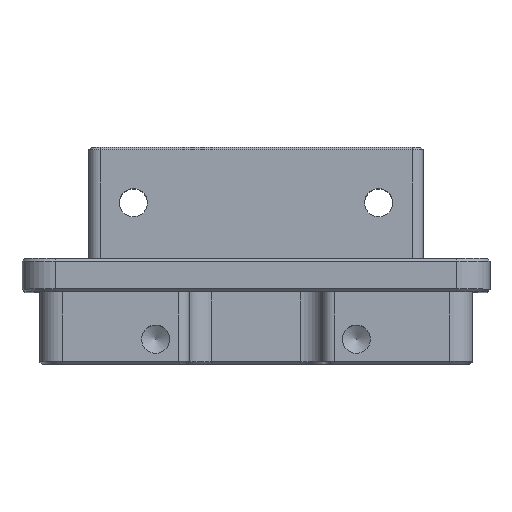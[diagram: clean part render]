
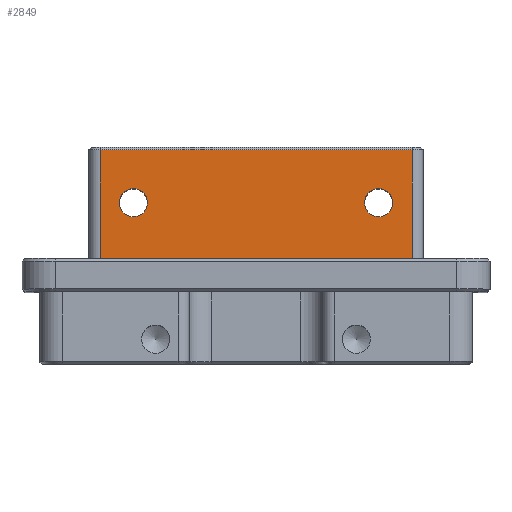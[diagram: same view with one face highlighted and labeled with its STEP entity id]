
A CAD part, top view. The second image highlights one B-rep face of the part: STEP entity #2849.
In plain terms, the highlighted planar face has unit normal (0, 0, 1).
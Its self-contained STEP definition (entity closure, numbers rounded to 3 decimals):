
#78=FACE_BOUND('',#455,.T.);
#79=FACE_BOUND('',#456,.T.);
#134=PLANE('',#3145);
#268=FACE_OUTER_BOUND('',#454,.T.);
#454=EDGE_LOOP('',(#2416,#2417,#2418,#2419));
#455=EDGE_LOOP('',(#2420));
#456=EDGE_LOOP('',(#2421));
#630=CIRCLE('',#3146,1.265);
#631=CIRCLE('',#3147,1.265);
#833=LINE('',#4683,#1103);
#856=LINE('',#4749,#1126);
#857=LINE('',#4753,#1127);
#858=LINE('',#4754,#1128);
#1103=VECTOR('',#3793,10.);
#1126=VECTOR('',#3872,10.);
#1127=VECTOR('',#3877,10.);
#1128=VECTOR('',#3878,10.);
#1378=VERTEX_POINT('',#4679);
#1379=VERTEX_POINT('',#4681);
#1394=VERTEX_POINT('',#4748);
#1395=VERTEX_POINT('',#4752);
#1396=VERTEX_POINT('',#4755);
#1397=VERTEX_POINT('',#4757);
#1721=EDGE_CURVE('',#1379,#1378,#833,.T.);
#1754=EDGE_CURVE('',#1378,#1394,#856,.T.);
#1756=EDGE_CURVE('',#1395,#1379,#857,.T.);
#1757=EDGE_CURVE('',#1394,#1395,#858,.T.);
#1758=EDGE_CURVE('',#1396,#1396,#630,.T.);
#1759=EDGE_CURVE('',#1397,#1397,#631,.T.);
#2416=ORIENTED_EDGE('',*,*,#1721,.F.);
#2417=ORIENTED_EDGE('',*,*,#1756,.F.);
#2418=ORIENTED_EDGE('',*,*,#1757,.F.);
#2419=ORIENTED_EDGE('',*,*,#1754,.F.);
#2420=ORIENTED_EDGE('',*,*,#1758,.T.);
#2421=ORIENTED_EDGE('',*,*,#1759,.T.);
#2849=ADVANCED_FACE('',(#268,#78,#79),#134,.T.);
#3145=AXIS2_PLACEMENT_3D('',#4751,#3875,#3876);
#3146=AXIS2_PLACEMENT_3D('',#4756,#3879,#3880);
#3147=AXIS2_PLACEMENT_3D('',#4758,#3881,#3882);
#3793=DIRECTION('',(1.,0.,0.));
#3872=DIRECTION('',(0.,-1.,0.));
#3875=DIRECTION('center_axis',(0.,0.,1.));
#3876=DIRECTION('ref_axis',(1.,0.,0.));
#3877=DIRECTION('',(0.,1.,0.));
#3878=DIRECTION('',(-1.,0.,0.));
#3879=DIRECTION('center_axis',(0.,0.,-1.));
#3880=DIRECTION('ref_axis',(1.,0.,0.));
#3881=DIRECTION('center_axis',(0.,0.,-1.));
#3882=DIRECTION('ref_axis',(1.,0.,0.));
#4679=CARTESIAN_POINT('',(14.,11.25,15.5));
#4681=CARTESIAN_POINT('',(-14.,11.25,15.5));
#4683=CARTESIAN_POINT('',(-7.5,11.25,15.5));
#4748=CARTESIAN_POINT('',(14.,1.5,15.5));
#4749=CARTESIAN_POINT('',(14.,0.,15.5));
#4751=CARTESIAN_POINT('Origin',(-15.,0.,15.5));
#4752=CARTESIAN_POINT('',(-14.,1.5,15.5));
#4753=CARTESIAN_POINT('',(-14.,0.,15.5));
#4754=CARTESIAN_POINT('',(-15.,1.5,15.5));
#4755=CARTESIAN_POINT('',(9.736,6.5,15.5));
#4756=CARTESIAN_POINT('Origin',(11.,6.5,15.5));
#4757=CARTESIAN_POINT('',(-12.265,6.5,15.5));
#4758=CARTESIAN_POINT('Origin',(-11.,6.5,15.5));
